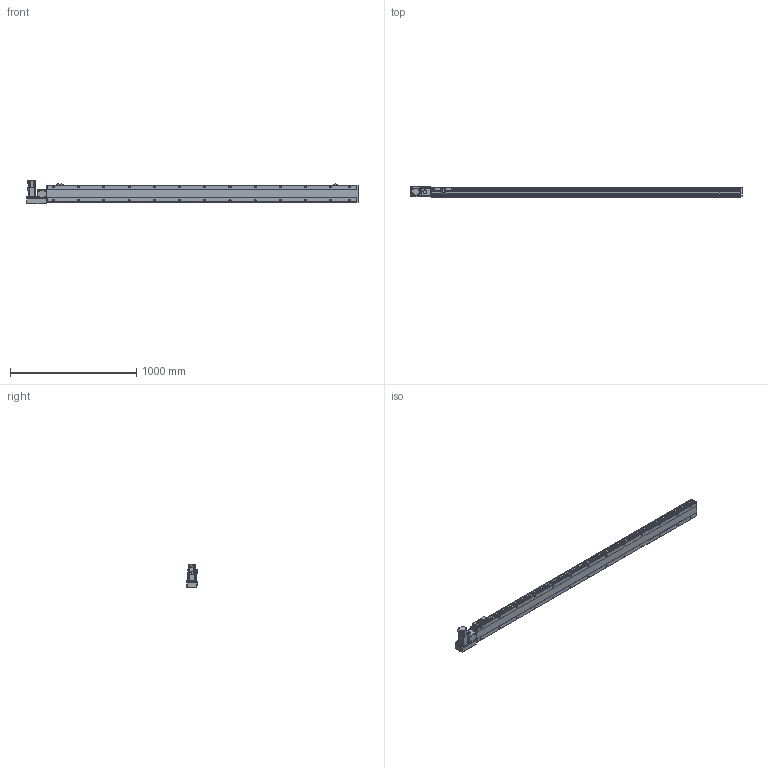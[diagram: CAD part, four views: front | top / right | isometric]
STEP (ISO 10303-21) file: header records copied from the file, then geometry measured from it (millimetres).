
FILE_DESCRIPTION( ( 'STEP AP214' ), '1' );
FILE_NAME( 'x:/temp/worker_27/temp/exporttempdir_6708_309_rjPSP/format_0/PBS140-P40-S2200-L-T40-C1-N(0).stp', '2022-06-06T01:06:47', ( 'License CC BY-ND 4.0' ), ( 'CADENAS' ), ' ', 'PARTsolutions', ' ' );
FILE_SCHEMA( ( 'AUTOMOTIVE_DESIGN { 1 0 10303 214 1 1 1 1 }' ) );
Length unit declared in the file: millimetre
Products named in the file (7): PBS140-P40-S2200-L-T40-C1-N(0); _PBS140-S2200()_body; _PBS140T-L_motors; _T40-p1; _PBS140_sliser; _PBS140_plant; _PBS140_sensor
Assembly tree (8 placements, depth 2):
  PBS140-P40-S2200-L-T40-C1-N(0)
    _PBS140-S2200()_body
    _PBS140T-L_motors
    _T40-p1
    _PBS140_sliser
    _PBS140_plant
    _PBS140_sensor  x3
Bounding box: 2633 x 80.5 x 189.7 mm (x, y, z)
Volume: 11543391.6 mm3; surface area: 1971802.4 mm2
Topology: 8 solids, 8 shells, 1155 faces, 3036 edges, 1983 vertices
Faces by surface type: plane 722, cylinder 371, cone 52, sphere 8, torus 2
Full cylindrical faces by diameter (mm): 3.242 x4, 4 x2, 4.134 x4, 4.4 x8, 4.5 x2, 4.8 x4, 4.917 x34, 5.5 x7, 6 x2, 7 x28, 7.5 x8, 8 x12, 8.5 x4, 10.5 x26, 14 x1, 30 x2, 50 x2
Entity records: 42499 total; most frequent: CARTESIAN_POINT 7091, DIRECTION 5547, ORIENTED_EDGE 5212, EDGE_CURVE 2606, AXIS2_PLACEMENT_3D 1957, VERTEX_POINT 1821, LINE 1633, VECTOR 1633
